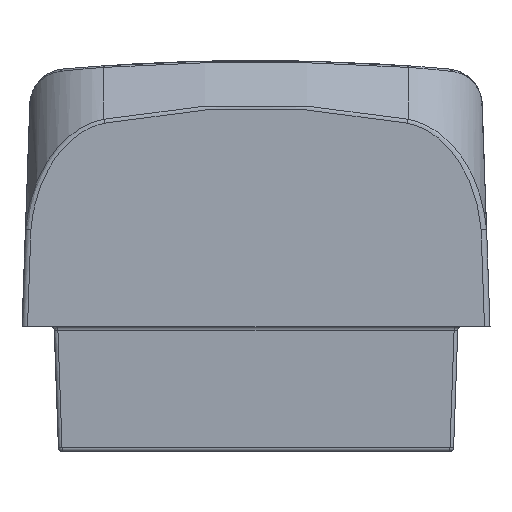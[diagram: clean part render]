
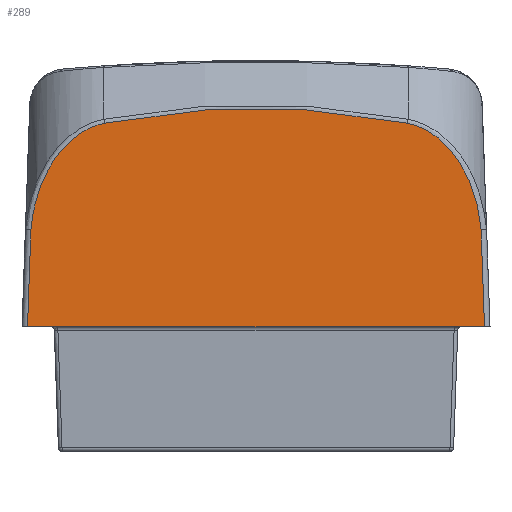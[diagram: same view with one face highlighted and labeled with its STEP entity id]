
A CAD part, front view. The second image highlights one B-rep face of the part: STEP entity #289.
In plain terms, the highlighted planar face has unit normal (0, -1, 0).
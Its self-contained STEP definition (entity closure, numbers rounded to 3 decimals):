
#289 = ADVANCED_FACE ( 'NONE', ( #8457 ), #4914, .F. ) ;
#2331 = CARTESIAN_POINT ( 'NONE',  ( -27.664, -452.128, 123.864 ) ) ;
#2850 = EDGE_CURVE ( 'NONE', #16346, #6914, #22463, .T. ) ;
#3336 = CARTESIAN_POINT ( 'NONE',  ( 82.463, -452.128, 113.056 ) ) ;
#3942 =( BOUNDED_CURVE ( )  B_SPLINE_CURVE ( 3, ( #22316, #9533, #2331, #15086 ),
 .UNSPECIFIED., .F., .F. ) 
 B_SPLINE_CURVE_WITH_KNOTS ( ( 4, 4 ),
 ( 6.145, 6.422 ),
 .UNSPECIFIED. ) 
 CURVE ( )  GEOMETRIC_REPRESENTATION_ITEM ( )  RATIONAL_B_SPLINE_CURVE ( ( 1., 0.994, 0.994, 1. ) ) 
 REPRESENTATION_ITEM ( '' )  );
#4789 = DIRECTION ( 'NONE',  ( 1., 0., 0. ) ) ;
#4816 = CARTESIAN_POINT ( 'NONE',  ( 120.091, -452.128, 86.175 ) ) ;
#4914 = PLANE ( 'NONE',  #7470 ) ;
#4917 = VERTEX_POINT ( 'NONE', #7120 ) ;
#4981 = CARTESIAN_POINT ( 'NONE',  ( -122.658, -452.128, 54.885 ) ) ;
#6368 = CARTESIAN_POINT ( 'NONE',  ( -122.658, -452.128, 54.885 ) ) ;
#6461 = CARTESIAN_POINT ( 'NONE',  ( 124.498, -452.128, 2.183 ) ) ;
#6735 = DIRECTION ( 'NONE',  ( 0., 1., 0. ) ) ;
#6914 = VERTEX_POINT ( 'NONE', #8436 ) ;
#6922 =( BOUNDED_CURVE ( )  B_SPLINE_CURVE ( 3, ( #15496, #16690, #17322, #6368 ),
 .UNSPECIFIED., .F., .T. ) 
 B_SPLINE_CURVE_WITH_KNOTS ( ( 4, 4 ),
 ( 0.139, 1.455 ),
 .UNSPECIFIED. ) 
 CURVE ( )  GEOMETRIC_REPRESENTATION_ITEM ( )  RATIONAL_B_SPLINE_CURVE ( ( 1., 0.861, 0.861, 1. ) ) 
 REPRESENTATION_ITEM ( '' )  );
#6971 = EDGE_CURVE ( 'NONE', #18685, #16346, #13298, .T. ) ;
#7120 = CARTESIAN_POINT ( 'NONE',  ( -82.463, -452.128, 113.056 ) ) ;
#7470 = AXIS2_PLACEMENT_3D ( 'NONE', #15870, #6735, #19518 ) ;
#8233 = DIRECTION ( 'NONE',  ( -0.035, 0., -0.999 ) ) ;
#8436 = CARTESIAN_POINT ( 'NONE',  ( 122.658, -452.128, 54.885 ) ) ;
#8457 = FACE_OUTER_BOUND ( 'NONE', #12900, .T. ) ;
#9204 = CARTESIAN_POINT ( 'NONE',  ( 121.818, -452.128, 78.937 ) ) ;
#9533 = CARTESIAN_POINT ( 'NONE',  ( 27.664, -452.128, 123.864 ) ) ;
#10766 = CARTESIAN_POINT ( 'NONE',  ( 82.463, -452.128, 113.056 ) ) ;
#11187 = VERTEX_POINT ( 'NONE', #4981 ) ;
#11945 = CARTESIAN_POINT ( 'NONE',  ( -124.498, -452.128, 2.183 ) ) ;
#12412 = ORIENTED_EDGE ( 'NONE', *, *, #19470, .T. ) ;
#12900 = EDGE_LOOP ( 'NONE', ( #20408, #17556, #16712, #15002, #13276, #12412 ) ) ;
#13047 = VECTOR ( 'NONE', #4789, 1000. ) ;
#13276 = ORIENTED_EDGE ( 'NONE', *, *, #16890, .T. ) ;
#13298 = LINE ( 'NONE', #19468, #13047 ) ;
#13381 =( BOUNDED_CURVE ( )  B_SPLINE_CURVE ( 3, ( #15777, #4816, #21704, #10766 ),
 .UNSPECIFIED., .F., .F. ) 
 B_SPLINE_CURVE_WITH_KNOTS ( ( 4, 4 ),
 ( 4.828, 6.145 ),
 .UNSPECIFIED. ) 
 CURVE ( )  GEOMETRIC_REPRESENTATION_ITEM ( )  RATIONAL_B_SPLINE_CURVE ( ( 1., 0.861, 0.861, 1. ) ) 
 REPRESENTATION_ITEM ( '' )  );
#13761 = CARTESIAN_POINT ( 'NONE',  ( -121.818, -452.128, 78.937 ) ) ;
#14467 = LINE ( 'NONE', #13761, #23563 ) ;
#15002 = ORIENTED_EDGE ( 'NONE', *, *, #15224, .T. ) ;
#15086 = CARTESIAN_POINT ( 'NONE',  ( -82.463, -452.128, 113.056 ) ) ;
#15224 = EDGE_CURVE ( 'NONE', #17169, #4917, #3942, .T. ) ;
#15496 = CARTESIAN_POINT ( 'NONE',  ( -82.463, -452.128, 113.056 ) ) ;
#15777 = CARTESIAN_POINT ( 'NONE',  ( 122.658, -452.128, 54.885 ) ) ;
#15870 = CARTESIAN_POINT ( 'NONE',  ( 0., -452.128, 74.683 ) ) ;
#16346 = VERTEX_POINT ( 'NONE', #6461 ) ;
#16690 = CARTESIAN_POINT ( 'NONE',  ( -104.523, -452.128, 108.705 ) ) ;
#16712 = ORIENTED_EDGE ( 'NONE', *, *, #19638, .T. ) ;
#16890 = EDGE_CURVE ( 'NONE', #4917, #11187, #6922, .T. ) ;
#17169 = VERTEX_POINT ( 'NONE', #3336 ) ;
#17322 = CARTESIAN_POINT ( 'NONE',  ( -120.091, -452.128, 86.175 ) ) ;
#17556 = ORIENTED_EDGE ( 'NONE', *, *, #2850, .T. ) ;
#18330 = DIRECTION ( 'NONE',  ( -0.035, 0., 0.999 ) ) ;
#18685 = VERTEX_POINT ( 'NONE', #11945 ) ;
#19468 = CARTESIAN_POINT ( 'NONE',  ( 0., -452.128, 2.183 ) ) ;
#19470 = EDGE_CURVE ( 'NONE', #11187, #18685, #14467, .T. ) ;
#19518 = DIRECTION ( 'NONE',  ( 0., 0., 1. ) ) ;
#19638 = EDGE_CURVE ( 'NONE', #6914, #17169, #13381, .T. ) ;
#20408 = ORIENTED_EDGE ( 'NONE', *, *, #6971, .T. ) ;
#21704 = CARTESIAN_POINT ( 'NONE',  ( 104.523, -452.128, 108.705 ) ) ;
#22316 = CARTESIAN_POINT ( 'NONE',  ( 82.463, -452.128, 113.056 ) ) ;
#22445 = VECTOR ( 'NONE', #18330, 1000. ) ;
#22463 = LINE ( 'NONE', #9204, #22445 ) ;
#23563 = VECTOR ( 'NONE', #8233, 1000. ) ;
